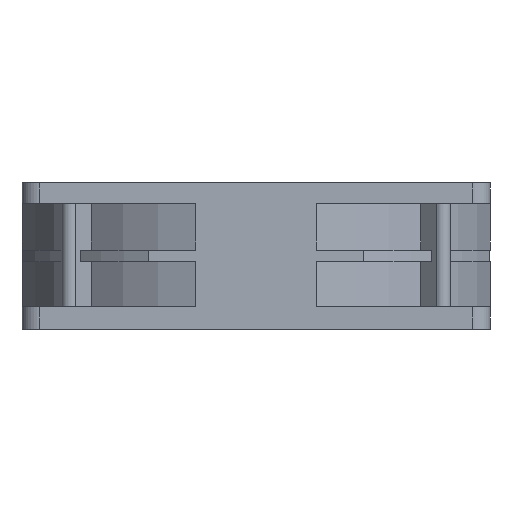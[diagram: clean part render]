
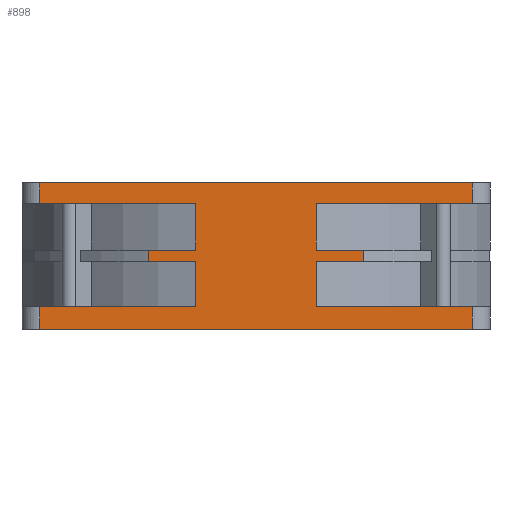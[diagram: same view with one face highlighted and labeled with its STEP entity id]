
A CAD part, left-side view. The second image highlights one B-rep face of the part: STEP entity #898.
In plain terms, the highlighted planar face has unit normal (-1, 0, 0).
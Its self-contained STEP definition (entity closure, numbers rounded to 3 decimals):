
#224=FACE_OUTER_BOUND('',#1234,.T.);
#397=LINE('',#4808,#659);
#398=LINE('',#4813,#660);
#408=LINE('',#4921,#670);
#409=LINE('',#4924,#671);
#410=LINE('',#4926,#672);
#411=LINE('',#4928,#673);
#412=LINE('',#4929,#674);
#413=LINE('',#4931,#675);
#414=LINE('',#4933,#676);
#415=LINE('',#4935,#677);
#416=LINE('',#4937,#678);
#417=LINE('',#4938,#679);
#418=LINE('',#4940,#680);
#419=LINE('',#4942,#681);
#420=LINE('',#4944,#682);
#421=LINE('',#4946,#683);
#422=LINE('',#4948,#684);
#423=LINE('',#4950,#685);
#424=LINE('',#4952,#686);
#425=LINE('',#4954,#687);
#659=VECTOR('',#3812,1.);
#660=VECTOR('',#3817,1.);
#670=VECTOR('',#3857,1.);
#671=VECTOR('',#3858,1.);
#672=VECTOR('',#3859,1.);
#673=VECTOR('',#3860,1.);
#674=VECTOR('',#3861,1.);
#675=VECTOR('',#3862,1.);
#676=VECTOR('',#3863,1.);
#677=VECTOR('',#3864,1.);
#678=VECTOR('',#3865,1.);
#679=VECTOR('',#3866,1.);
#680=VECTOR('',#3867,1.);
#681=VECTOR('',#3868,1.);
#682=VECTOR('',#3869,1.);
#683=VECTOR('',#3870,1.);
#684=VECTOR('',#3871,1.);
#685=VECTOR('',#3872,1.);
#686=VECTOR('',#3873,1.);
#687=VECTOR('',#3874,1.);
#898=ADVANCED_FACE('',(#224),#1067,.F.);
#1067=PLANE('',#3414);
#1234=EDGE_LOOP('',(#1512,#1513,#1514,#1515,#1516,#1517,#1518,#1519,#1520,
#1521,#1522,#1523,#1524,#1525,#1526,#1527,#1528,#1529,#1530,#1531));
#1512=ORIENTED_EDGE('',*,*,#2823,.T.);
#1513=ORIENTED_EDGE('',*,*,#2824,.F.);
#1514=ORIENTED_EDGE('',*,*,#2825,.T.);
#1515=ORIENTED_EDGE('',*,*,#2826,.T.);
#1516=ORIENTED_EDGE('',*,*,#2797,.T.);
#1517=ORIENTED_EDGE('',*,*,#2827,.T.);
#1518=ORIENTED_EDGE('',*,*,#2828,.T.);
#1519=ORIENTED_EDGE('',*,*,#2829,.F.);
#1520=ORIENTED_EDGE('',*,*,#2830,.T.);
#1521=ORIENTED_EDGE('',*,*,#2831,.T.);
#1522=ORIENTED_EDGE('',*,*,#2799,.T.);
#1523=ORIENTED_EDGE('',*,*,#2832,.T.);
#1524=ORIENTED_EDGE('',*,*,#2833,.F.);
#1525=ORIENTED_EDGE('',*,*,#2834,.F.);
#1526=ORIENTED_EDGE('',*,*,#2835,.T.);
#1527=ORIENTED_EDGE('',*,*,#2836,.F.);
#1528=ORIENTED_EDGE('',*,*,#2837,.T.);
#1529=ORIENTED_EDGE('',*,*,#2838,.T.);
#1530=ORIENTED_EDGE('',*,*,#2839,.T.);
#1531=ORIENTED_EDGE('',*,*,#2840,.F.);
#2463=VERTEX_POINT('',#4803);
#2465=VERTEX_POINT('',#4807);
#2466=VERTEX_POINT('',#4811);
#2468=VERTEX_POINT('',#4814);
#2490=VERTEX_POINT('',#4922);
#2491=VERTEX_POINT('',#4923);
#2492=VERTEX_POINT('',#4925);
#2493=VERTEX_POINT('',#4927);
#2494=VERTEX_POINT('',#4930);
#2495=VERTEX_POINT('',#4932);
#2496=VERTEX_POINT('',#4934);
#2497=VERTEX_POINT('',#4936);
#2498=VERTEX_POINT('',#4939);
#2499=VERTEX_POINT('',#4941);
#2500=VERTEX_POINT('',#4943);
#2501=VERTEX_POINT('',#4945);
#2502=VERTEX_POINT('',#4947);
#2503=VERTEX_POINT('',#4949);
#2504=VERTEX_POINT('',#4951);
#2505=VERTEX_POINT('',#4953);
#2797=EDGE_CURVE('',#2463,#2465,#397,.T.);
#2799=EDGE_CURVE('',#2468,#2466,#398,.T.);
#2823=EDGE_CURVE('',#2490,#2491,#408,.T.);
#2824=EDGE_CURVE('',#2492,#2491,#409,.T.);
#2825=EDGE_CURVE('',#2492,#2493,#410,.T.);
#2826=EDGE_CURVE('',#2493,#2463,#411,.T.);
#2827=EDGE_CURVE('',#2465,#2494,#412,.T.);
#2828=EDGE_CURVE('',#2494,#2495,#413,.T.);
#2829=EDGE_CURVE('',#2496,#2495,#414,.T.);
#2830=EDGE_CURVE('',#2496,#2497,#415,.T.);
#2831=EDGE_CURVE('',#2497,#2468,#416,.T.);
#2832=EDGE_CURVE('',#2466,#2498,#417,.T.);
#2833=EDGE_CURVE('',#2499,#2498,#418,.T.);
#2834=EDGE_CURVE('',#2500,#2499,#419,.T.);
#2835=EDGE_CURVE('',#2500,#2501,#420,.T.);
#2836=EDGE_CURVE('',#2502,#2501,#421,.T.);
#2837=EDGE_CURVE('',#2502,#2503,#422,.T.);
#2838=EDGE_CURVE('',#2503,#2504,#423,.T.);
#2839=EDGE_CURVE('',#2504,#2505,#424,.T.);
#2840=EDGE_CURVE('',#2490,#2505,#425,.T.);
#3414=AXIS2_PLACEMENT_3D('',#4955,#3875,#3876);
#3812=DIRECTION('',(0.,0.,-1.));
#3817=DIRECTION('',(0.,0.,1.));
#3857=DIRECTION('',(0.,0.,-1.));
#3858=DIRECTION('',(0.,-1.,0.));
#3859=DIRECTION('',(0.,0.,-1.));
#3860=DIRECTION('',(0.,-1.,0.));
#3861=DIRECTION('',(0.,1.,0.));
#3862=DIRECTION('',(0.,0.,-1.));
#3863=DIRECTION('',(0.,1.,0.));
#3864=DIRECTION('',(0.,0.,1.));
#3865=DIRECTION('',(0.,1.,0.));
#3866=DIRECTION('',(0.,-1.,0.));
#3867=DIRECTION('',(0.,0.,-1.));
#3868=DIRECTION('',(0.,-1.,0.));
#3869=DIRECTION('',(0.,0.,1.));
#3870=DIRECTION('',(0.,1.,0.));
#3871=DIRECTION('',(0.,0.,1.));
#3872=DIRECTION('',(0.,1.,0.));
#3873=DIRECTION('',(0.,0.,-1.));
#3874=DIRECTION('',(0.,1.,0.));
#3875=DIRECTION('',(1.,0.,0.));
#3876=DIRECTION('',(0.,0.,1.));
#4803=CARTESIAN_POINT('',(-40.,10.281,12.58));
#4807=CARTESIAN_POINT('',(-40.,10.281,4.88));
#4808=CARTESIAN_POINT('',(-40.,10.281,22.58));
#4811=CARTESIAN_POINT('',(-40.,-10.281,12.58));
#4813=CARTESIAN_POINT('',(-40.,-10.281,22.58));
#4814=CARTESIAN_POINT('',(-40.,-10.281,4.88));
#4921=CARTESIAN_POINT('',(-40.,10.281,22.58));
#4922=CARTESIAN_POINT('',(-40.,10.281,22.58));
#4923=CARTESIAN_POINT('',(-40.,10.281,14.58));
#4924=CARTESIAN_POINT('',(-40.,18.33,14.58));
#4925=CARTESIAN_POINT('',(-40.,18.33,14.58));
#4926=CARTESIAN_POINT('',(-40.,18.33,14.58));
#4927=CARTESIAN_POINT('',(-40.,18.33,12.58));
#4928=CARTESIAN_POINT('',(-40.,18.33,12.58));
#4929=CARTESIAN_POINT('',(-40.,-40.,4.88));
#4930=CARTESIAN_POINT('',(-40.,37.,4.88));
#4931=CARTESIAN_POINT('',(-40.,37.,1.08));
#4932=CARTESIAN_POINT('',(-40.,37.,1.08));
#4933=CARTESIAN_POINT('',(-40.,-40.,1.08));
#4934=CARTESIAN_POINT('',(-40.,-37.,1.08));
#4935=CARTESIAN_POINT('',(-40.,-37.,1.08));
#4936=CARTESIAN_POINT('',(-40.,-37.,4.88));
#4937=CARTESIAN_POINT('',(-40.,-40.,4.88));
#4938=CARTESIAN_POINT('',(-40.,18.33,12.58));
#4939=CARTESIAN_POINT('',(-40.,-18.33,12.58));
#4940=CARTESIAN_POINT('',(-40.,-18.33,14.58));
#4941=CARTESIAN_POINT('',(-40.,-18.33,14.58));
#4942=CARTESIAN_POINT('',(-40.,18.33,14.58));
#4943=CARTESIAN_POINT('',(-40.,-10.281,14.58));
#4944=CARTESIAN_POINT('',(-40.,-10.281,22.58));
#4945=CARTESIAN_POINT('',(-40.,-10.281,22.58));
#4946=CARTESIAN_POINT('',(-40.,-40.,22.58));
#4947=CARTESIAN_POINT('',(-40.,-37.,22.58));
#4948=CARTESIAN_POINT('',(-40.,-37.,1.08));
#4949=CARTESIAN_POINT('',(-40.,-37.,26.08));
#4950=CARTESIAN_POINT('',(-40.,-40.,26.08));
#4951=CARTESIAN_POINT('',(-40.,37.,26.08));
#4952=CARTESIAN_POINT('',(-40.,37.,1.08));
#4953=CARTESIAN_POINT('',(-40.,37.,22.58));
#4954=CARTESIAN_POINT('',(-40.,-40.,22.58));
#4955=CARTESIAN_POINT('',(-40.,-40.,1.08));
